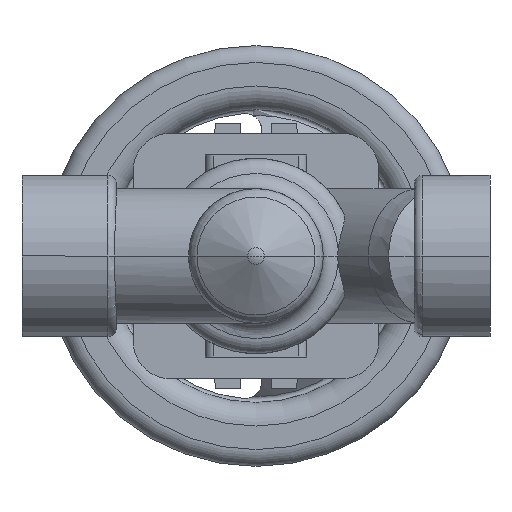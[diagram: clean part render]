
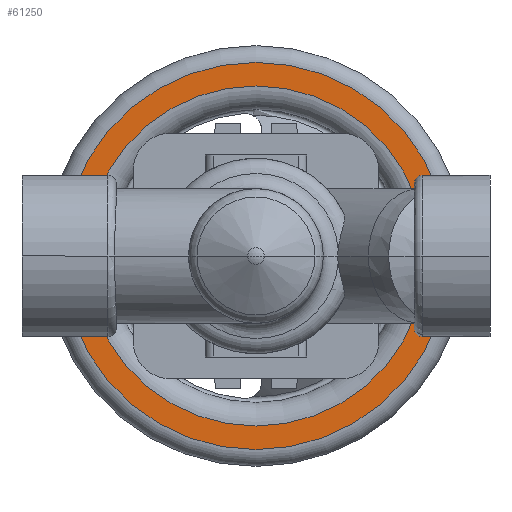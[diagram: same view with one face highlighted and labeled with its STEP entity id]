
A CAD part, front view. The second image highlights one B-rep face of the part: STEP entity #61250.
In plain terms, the highlighted planar face has unit normal (0, -1, 0).
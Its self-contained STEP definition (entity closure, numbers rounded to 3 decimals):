
#60600=CARTESIAN_POINT('',(12.,212.3,0.));
#60610=VERTEX_POINT('',#60600);
#60640=CARTESIAN_POINT('',(69.5,212.3,0.));
#60650=DIRECTION('',(0.,1.,0.));
#60660=DIRECTION('',(-1.,0.,0.));
#60670=AXIS2_PLACEMENT_3D('',#60640,#60650,#60660);
#60680=CIRCLE('',#60670,57.5);
#60690=CARTESIAN_POINT('',(69.5,212.3,-57.5));
#60700=VERTEX_POINT('',#60690);
#60710=EDGE_CURVE('',#60700,#60610,#60680,.T.);
#60730=CARTESIAN_POINT('',(127.,212.3,0.));
#60740=VERTEX_POINT('',#60730);
#60750=EDGE_CURVE('',#60740,#60700,#60680,.T.);
#60950=CARTESIAN_POINT('',(15.5,212.3,0.));
#60960=DIRECTION('',(0.,-1.,0.));
#60970=DIRECTION('',(1.,0.,0.));
#60980=AXIS2_PLACEMENT_3D('',#60950,#60960,#60970);
#60990=PLANE('',#60980);
#61000=ORIENTED_EDGE('',*,*,#60710,.F.);
#61010=EDGE_CURVE('',#60610,#60740,#60680,.T.);
#61020=ORIENTED_EDGE('',*,*,#61010,.F.);
#61030=ORIENTED_EDGE('',*,*,#60750,.F.);
#61040=EDGE_LOOP('',(#61030,#61020,#61000));
#61050=FACE_OUTER_BOUND('',#61040,.T.);
#61060=CARTESIAN_POINT('',(69.5,212.3,0.));
#61070=DIRECTION('',(0.,1.,0.));
#61080=DIRECTION('',(-1.,0.,0.));
#61090=AXIS2_PLACEMENT_3D('',#61060,#61070,#61080);
#61100=CIRCLE('',#61090,50.5);
#61110=CARTESIAN_POINT('',(19.,212.3,0.));
#61120=VERTEX_POINT('',#61110);
#61130=CARTESIAN_POINT('',(120.,212.3,0.));
#61140=VERTEX_POINT('',#61130);
#61150=EDGE_CURVE('',#61120,#61140,#61100,.T.);
#61160=ORIENTED_EDGE('',*,*,#61150,.T.);
#61170=CARTESIAN_POINT('',(69.5,212.3,-50.5));
#61180=VERTEX_POINT('',#61170);
#61190=EDGE_CURVE('',#61180,#61120,#61100,.T.);
#61200=ORIENTED_EDGE('',*,*,#61190,.T.);
#61210=EDGE_CURVE('',#61140,#61180,#61100,.T.);
#61220=ORIENTED_EDGE('',*,*,#61210,.T.);
#61230=EDGE_LOOP('',(#61220,#61200,#61160));
#61240=FACE_BOUND('',#61230,.T.);
#61250=ADVANCED_FACE('',(#61050,#61240),#60990,.T.);
